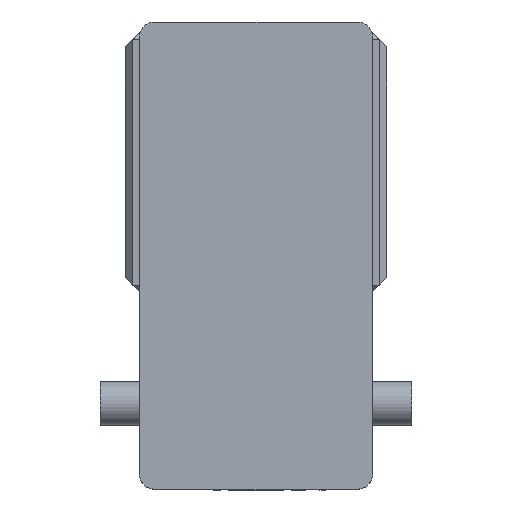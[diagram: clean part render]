
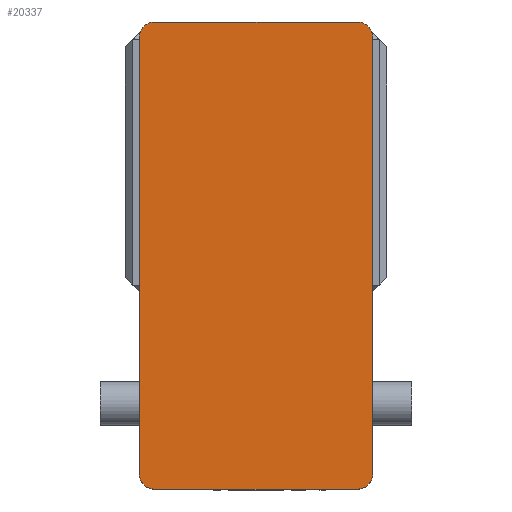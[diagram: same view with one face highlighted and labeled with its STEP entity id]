
A CAD part, left-side view. The second image highlights one B-rep face of the part: STEP entity #20337.
In plain terms, the highlighted planar face has unit normal (-1, 0, 0) as drawn and (0, 0, 1) by its records, which use the part's own axes.
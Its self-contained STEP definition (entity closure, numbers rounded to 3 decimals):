
#1598 = VERTEX_POINT ( 'NONE', #11675 ) ;
#1797 = CARTESIAN_POINT ( 'NONE',  ( -75., 140., 105. ) ) ;
#1995 = VECTOR ( 'NONE', #20509, 1000. ) ;
#2000 = LINE ( 'NONE', #18830, #1995 ) ;
#2783 = CARTESIAN_POINT ( 'NONE',  ( 0., 0., 105. ) ) ;
#2865 = AXIS2_PLACEMENT_3D ( 'NONE', #11154, #11150, #11121 ) ;
#3153 = AXIS2_PLACEMENT_3D ( 'NONE', #13149, #13122, #13102 ) ;
#3999 = ORIENTED_EDGE ( 'NONE', *, *, #4919, .T. ) ;
#4161 = CARTESIAN_POINT ( 'NONE',  ( -75., -140., 105. ) ) ;
#4457 = EDGE_CURVE ( 'NONE', #11259, #9975, #6280, .T. ) ;
#4665 = ORIENTED_EDGE ( 'NONE', *, *, #20396, .T. ) ;
#4677 = DIRECTION ( 'NONE',  ( 0., 0., 1. ) ) ;
#4785 = EDGE_CURVE ( 'NONE', #9975, #7930, #5741, .T. ) ;
#4919 = EDGE_CURVE ( 'NONE', #12361, #1598, #5465, .T. ) ;
#5062 = EDGE_CURVE ( 'NONE', #16129, #8098, #5259, .T. ) ;
#5073 = CIRCLE ( 'NONE', #14452, 10. ) ;
#5157 = EDGE_CURVE ( 'NONE', #6102, #11259, #5073, .T. ) ;
#5259 = CIRCLE ( 'NONE', #22492, 10. ) ;
#5465 = CIRCLE ( 'NONE', #2865, 10. ) ;
#5701 = VECTOR ( 'NONE', #15849, 1000. ) ;
#5741 = CIRCLE ( 'NONE', #3153, 10. ) ;
#6102 = VERTEX_POINT ( 'NONE', #4161 ) ;
#6186 = VECTOR ( 'NONE', #17329, 1000. ) ;
#6280 = LINE ( 'NONE', #17467, #6186 ) ;
#6637 = EDGE_LOOP ( 'NONE', ( #17798, #17061, #4665, #3999, #22608, #11197, #9756, #8355 ) ) ;
#7140 = CARTESIAN_POINT ( 'NONE',  ( -75., 150., 105. ) ) ;
#7930 = VERTEX_POINT ( 'NONE', #11466 ) ;
#8098 = VERTEX_POINT ( 'NONE', #1797 ) ;
#8344 = DIRECTION ( 'NONE',  ( 0., 1., 0. ) ) ;
#8355 = ORIENTED_EDGE ( 'NONE', *, *, #5157, .T. ) ;
#9537 = DIRECTION ( 'NONE',  ( 1., 0., 0. ) ) ;
#9540 = DIRECTION ( 'NONE',  ( 0., 0., 1. ) ) ;
#9560 = CARTESIAN_POINT ( 'NONE',  ( -65., -140., 105. ) ) ;
#9756 = ORIENTED_EDGE ( 'NONE', *, *, #22318, .T. ) ;
#9975 = VERTEX_POINT ( 'NONE', #18517 ) ;
#10146 = DIRECTION ( 'NONE',  ( 1., 0., 0. ) ) ;
#10191 = DIRECTION ( 'NONE',  ( 0., 0., 1. ) ) ;
#10197 = CARTESIAN_POINT ( 'NONE',  ( -65., 140., 105. ) ) ;
#11121 = DIRECTION ( 'NONE',  ( 1., 0., 0. ) ) ;
#11150 = DIRECTION ( 'NONE',  ( 0., 0., 1. ) ) ;
#11154 = CARTESIAN_POINT ( 'NONE',  ( 65., 140., 105. ) ) ;
#11197 = ORIENTED_EDGE ( 'NONE', *, *, #5062, .T. ) ;
#11259 = VERTEX_POINT ( 'NONE', #18384 ) ;
#11466 = CARTESIAN_POINT ( 'NONE',  ( 75., -140., 105. ) ) ;
#11675 = CARTESIAN_POINT ( 'NONE',  ( 65., 150., 105. ) ) ;
#11898 = CARTESIAN_POINT ( 'NONE',  ( 75., 140., 105. ) ) ;
#12361 = VERTEX_POINT ( 'NONE', #11898 ) ;
#13102 = DIRECTION ( 'NONE',  ( 1., 0., 0. ) ) ;
#13122 = DIRECTION ( 'NONE',  ( 0., 0., 1. ) ) ;
#13149 = CARTESIAN_POINT ( 'NONE',  ( 65., -140., 105. ) ) ;
#13542 = PLANE ( 'NONE',  #20774 ) ;
#14452 = AXIS2_PLACEMENT_3D ( 'NONE', #9560, #9540, #9537 ) ;
#15849 = DIRECTION ( 'NONE',  ( -1., 0., 0. ) ) ;
#16129 = VERTEX_POINT ( 'NONE', #17778 ) ;
#17001 = DIRECTION ( 'NONE',  ( 1., 0., 0. ) ) ;
#17061 = ORIENTED_EDGE ( 'NONE', *, *, #4785, .T. ) ;
#17080 = CARTESIAN_POINT ( 'NONE',  ( 75., 150., 105. ) ) ;
#17329 = DIRECTION ( 'NONE',  ( 1., 0., 0. ) ) ;
#17467 = CARTESIAN_POINT ( 'NONE',  ( -75., -150., 105. ) ) ;
#17778 = CARTESIAN_POINT ( 'NONE',  ( -65., 150., 105. ) ) ;
#17798 = ORIENTED_EDGE ( 'NONE', *, *, #4457, .T. ) ;
#18384 = CARTESIAN_POINT ( 'NONE',  ( -65., -150., 105. ) ) ;
#18517 = CARTESIAN_POINT ( 'NONE',  ( 65., -150., 105. ) ) ;
#18706 = VECTOR ( 'NONE', #8344, 1000. ) ;
#18826 = LINE ( 'NONE', #17080, #18706 ) ;
#18830 = CARTESIAN_POINT ( 'NONE',  ( -75., 150., 105. ) ) ;
#19074 = FACE_OUTER_BOUND ( 'NONE', #6637, .T. ) ;
#20337 = ADVANCED_FACE ( 'NONE', ( #19074 ), #13542, .T. ) ;
#20396 = EDGE_CURVE ( 'NONE', #7930, #12361, #18826, .T. ) ;
#20509 = DIRECTION ( 'NONE',  ( 0., -1., 0. ) ) ;
#20731 = EDGE_CURVE ( 'NONE', #1598, #16129, #21969, .T. ) ;
#20774 = AXIS2_PLACEMENT_3D ( 'NONE', #2783, #4677, #17001 ) ;
#21969 = LINE ( 'NONE', #7140, #5701 ) ;
#22318 = EDGE_CURVE ( 'NONE', #8098, #6102, #2000, .T. ) ;
#22492 = AXIS2_PLACEMENT_3D ( 'NONE', #10197, #10191, #10146 ) ;
#22608 = ORIENTED_EDGE ( 'NONE', *, *, #20731, .T. ) ;
